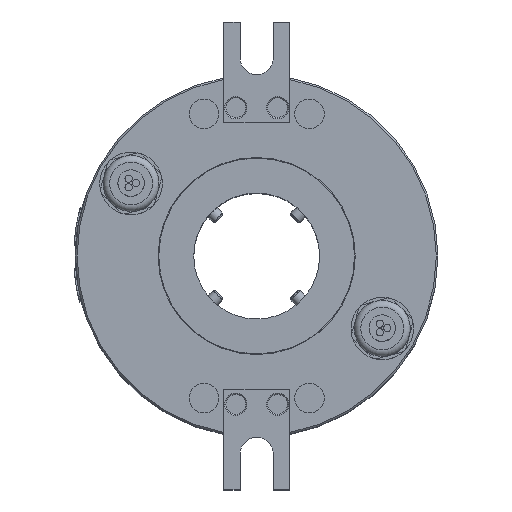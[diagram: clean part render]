
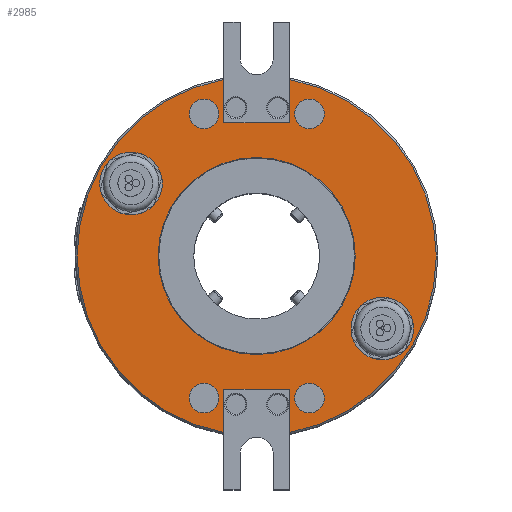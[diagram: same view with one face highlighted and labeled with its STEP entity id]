
A CAD part, top view. The second image highlights one B-rep face of the part: STEP entity #2985.
In plain terms, the highlighted planar face has unit normal (0, 0, 1).
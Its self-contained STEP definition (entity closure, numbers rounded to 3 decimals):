
#2985=ADVANCED_FACE('',(#5369,#5370,#5371,#5372,#5373,#5374,#5375,#5376),
#3858,.F.);
#3858=PLANE('',#14928);
#4260=LINE('',#18533,#4658);
#4261=LINE('',#18536,#4659);
#4262=LINE('',#18538,#4660);
#4263=LINE('',#18542,#4661);
#4264=LINE('',#18544,#4662);
#4265=LINE('',#18546,#4663);
#4658=VECTOR('',#15897,1.);
#4659=VECTOR('',#15898,1.);
#4660=VECTOR('',#15899,1.);
#4661=VECTOR('',#15902,1.);
#4662=VECTOR('',#15903,1.);
#4663=VECTOR('',#15904,1.);
#5369=FACE_BOUND('',#5692,.T.);
#5370=FACE_BOUND('',#5693,.T.);
#5371=FACE_BOUND('',#5694,.T.);
#5372=FACE_BOUND('',#5695,.T.);
#5373=FACE_BOUND('',#5696,.T.);
#5374=FACE_BOUND('',#5697,.T.);
#5375=FACE_BOUND('',#5698,.T.);
#5376=FACE_BOUND('',#5699,.T.);
#5692=EDGE_LOOP('',(#6755));
#5693=EDGE_LOOP('',(#6756));
#5694=EDGE_LOOP('',(#6757));
#5695=EDGE_LOOP('',(#6758));
#5696=EDGE_LOOP('',(#6759));
#5697=EDGE_LOOP('',(#6760));
#5698=EDGE_LOOP('',(#6761));
#5699=EDGE_LOOP('',(#6762,#6763,#6764,#6765,#6766,#6767,#6768,#6769));
#6755=ORIENTED_EDGE('',*,*,#12465,.T.);
#6756=ORIENTED_EDGE('',*,*,#12466,.T.);
#6757=ORIENTED_EDGE('',*,*,#12467,.T.);
#6758=ORIENTED_EDGE('',*,*,#12468,.T.);
#6759=ORIENTED_EDGE('',*,*,#12469,.T.);
#6760=ORIENTED_EDGE('',*,*,#12470,.T.);
#6761=ORIENTED_EDGE('',*,*,#12471,.T.);
#6762=ORIENTED_EDGE('',*,*,#12472,.F.);
#6763=ORIENTED_EDGE('',*,*,#12473,.F.);
#6764=ORIENTED_EDGE('',*,*,#12474,.F.);
#6765=ORIENTED_EDGE('',*,*,#12475,.T.);
#6766=ORIENTED_EDGE('',*,*,#12476,.F.);
#6767=ORIENTED_EDGE('',*,*,#12477,.F.);
#6768=ORIENTED_EDGE('',*,*,#12478,.F.);
#6769=ORIENTED_EDGE('',*,*,#12479,.T.);
#11017=VERTEX_POINT('',#18520);
#11018=VERTEX_POINT('',#18522);
#11019=VERTEX_POINT('',#18524);
#11020=VERTEX_POINT('',#18526);
#11021=VERTEX_POINT('',#18528);
#11022=VERTEX_POINT('',#18530);
#11023=VERTEX_POINT('',#18532);
#11024=VERTEX_POINT('',#18534);
#11025=VERTEX_POINT('',#18535);
#11026=VERTEX_POINT('',#18537);
#11027=VERTEX_POINT('',#18539);
#11028=VERTEX_POINT('',#18541);
#11029=VERTEX_POINT('',#18543);
#11030=VERTEX_POINT('',#18545);
#11031=VERTEX_POINT('',#18547);
#12465=EDGE_CURVE('',#11017,#11017,#14596,.T.);
#12466=EDGE_CURVE('',#11018,#11018,#14597,.T.);
#12467=EDGE_CURVE('',#11019,#11019,#14598,.T.);
#12468=EDGE_CURVE('',#11020,#11020,#14599,.T.);
#12469=EDGE_CURVE('',#11021,#11021,#14600,.T.);
#12470=EDGE_CURVE('',#11022,#11022,#14601,.T.);
#12471=EDGE_CURVE('',#11023,#11023,#14602,.T.);
#12472=EDGE_CURVE('',#11024,#11025,#4260,.T.);
#12473=EDGE_CURVE('',#11026,#11024,#4261,.T.);
#12474=EDGE_CURVE('',#11027,#11026,#4262,.T.);
#12475=EDGE_CURVE('',#11027,#11028,#14603,.T.);
#12476=EDGE_CURVE('',#11029,#11028,#4263,.T.);
#12477=EDGE_CURVE('',#11030,#11029,#4264,.T.);
#12478=EDGE_CURVE('',#11031,#11030,#4265,.T.);
#12479=EDGE_CURVE('',#11031,#11025,#14604,.T.);
#14596=CIRCLE('',#14919,9.5);
#14597=CIRCLE('',#14920,9.5);
#14598=CIRCLE('',#14921,4.5);
#14599=CIRCLE('',#14922,4.5);
#14600=CIRCLE('',#14923,4.5);
#14601=CIRCLE('',#14924,4.5);
#14602=CIRCLE('',#14925,29.9);
#14603=CIRCLE('',#14926,54.5);
#14604=CIRCLE('',#14927,54.5);
#14919=AXIS2_PLACEMENT_3D('',#18519,#15883,#15884);
#14920=AXIS2_PLACEMENT_3D('',#18521,#15885,#15886);
#14921=AXIS2_PLACEMENT_3D('',#18523,#15887,#15888);
#14922=AXIS2_PLACEMENT_3D('',#18525,#15889,#15890);
#14923=AXIS2_PLACEMENT_3D('',#18527,#15891,#15892);
#14924=AXIS2_PLACEMENT_3D('',#18529,#15893,#15894);
#14925=AXIS2_PLACEMENT_3D('',#18531,#15895,#15896);
#14926=AXIS2_PLACEMENT_3D('',#18540,#15900,#15901);
#14927=AXIS2_PLACEMENT_3D('',#18548,#15905,#15906);
#14928=AXIS2_PLACEMENT_3D('',#18549,#15907,#15908);
#15883=DIRECTION('',(0.,0.,-1.));
#15884=DIRECTION('',(-0.966,0.259,0.));
#15885=DIRECTION('',(0.,0.,-1.));
#15886=DIRECTION('',(-0.966,0.259,0.));
#15887=DIRECTION('',(0.,0.,-1.));
#15888=DIRECTION('',(-1.,0.,0.));
#15889=DIRECTION('',(0.,0.,-1.));
#15890=DIRECTION('',(-1.,0.,0.));
#15891=DIRECTION('',(0.,0.,-1.));
#15892=DIRECTION('',(-1.,0.,0.));
#15893=DIRECTION('',(0.,0.,-1.));
#15894=DIRECTION('',(-1.,0.,0.));
#15895=DIRECTION('',(0.,0.,-1.));
#15896=DIRECTION('',(-1.,0.,0.));
#15897=DIRECTION('',(0.,1.,0.));
#15898=DIRECTION('',(1.,0.,0.));
#15899=DIRECTION('',(0.,-1.,0.));
#15900=DIRECTION('',(0.,0.,1.));
#15901=DIRECTION('',(-1.,0.,0.));
#15902=DIRECTION('',(0.,-1.,0.));
#15903=DIRECTION('',(-1.,0.,0.));
#15904=DIRECTION('',(0.,1.,0.));
#15905=DIRECTION('',(0.,0.,1.));
#15906=DIRECTION('',(-1.,0.,0.));
#15907=DIRECTION('',(0.,0.,-1.));
#15908=DIRECTION('',(-1.,0.,0.));
#18519=CARTESIAN_POINT('',(38.105,-22.,90.));
#18520=CARTESIAN_POINT('',(28.929,-19.541,90.));
#18521=CARTESIAN_POINT('',(-38.105,22.,90.));
#18522=CARTESIAN_POINT('',(-47.281,24.459,90.));
#18523=CARTESIAN_POINT('',(16.,-43.128,90.));
#18524=CARTESIAN_POINT('',(11.5,-43.128,90.));
#18525=CARTESIAN_POINT('',(16.,43.128,90.));
#18526=CARTESIAN_POINT('',(11.5,43.128,90.));
#18527=CARTESIAN_POINT('',(-16.,43.128,90.));
#18528=CARTESIAN_POINT('',(-20.5,43.128,90.));
#18529=CARTESIAN_POINT('',(-16.,-43.128,90.));
#18530=CARTESIAN_POINT('',(-20.5,-43.128,90.));
#18531=CARTESIAN_POINT('',(0.,0.,90.));
#18532=CARTESIAN_POINT('',(-29.9,0.,90.));
#18533=CARTESIAN_POINT('',(10.,40.5,90.));
#18534=CARTESIAN_POINT('',(10.,40.5,90.));
#18535=CARTESIAN_POINT('',(10.,53.575,90.));
#18536=CARTESIAN_POINT('',(-10.,40.5,90.));
#18537=CARTESIAN_POINT('',(-10.,40.5,90.));
#18538=CARTESIAN_POINT('',(-10.,71.,90.));
#18539=CARTESIAN_POINT('',(-10.,53.575,90.));
#18540=CARTESIAN_POINT('',(0.,0.,90.));
#18541=CARTESIAN_POINT('',(-10.,-53.575,90.));
#18542=CARTESIAN_POINT('',(-10.,-40.5,90.));
#18543=CARTESIAN_POINT('',(-10.,-40.5,90.));
#18544=CARTESIAN_POINT('',(10.,-40.5,90.));
#18545=CARTESIAN_POINT('',(10.,-40.5,90.));
#18546=CARTESIAN_POINT('',(10.,-71.,90.));
#18547=CARTESIAN_POINT('',(10.,-53.575,90.));
#18548=CARTESIAN_POINT('',(0.,0.,90.));
#18549=CARTESIAN_POINT('',(0.,0.,90.));
